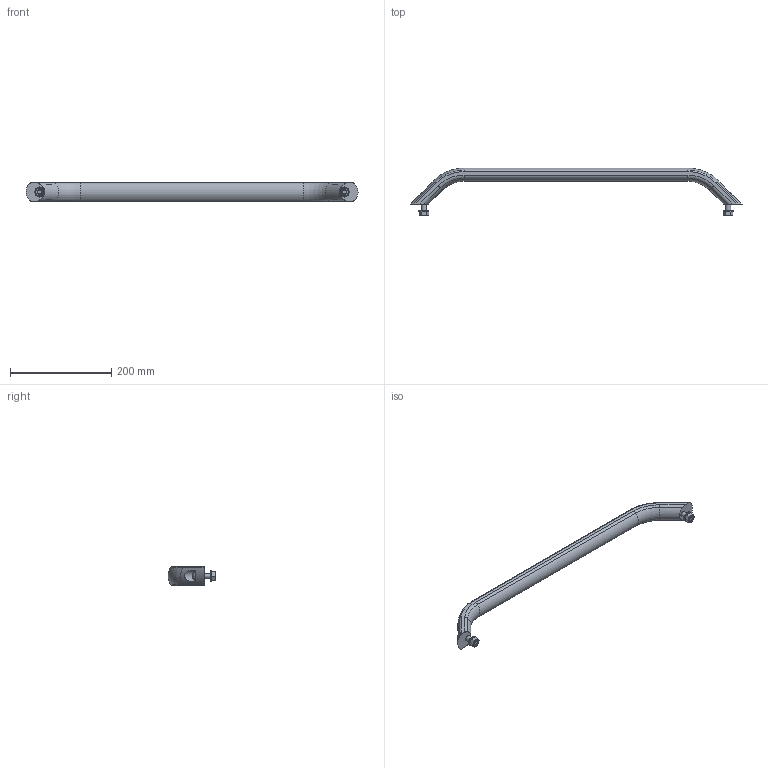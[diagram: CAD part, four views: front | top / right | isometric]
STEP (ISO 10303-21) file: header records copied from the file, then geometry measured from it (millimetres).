
FILE_DESCRIPTION( ( 'STEP AP203' ), '1' );
FILE_NAME( 'C:/Temp/Ganter_Step_05_03_2020/data/1_2/gn_428/gn_428_b/Cabinet U-handle GN 428-AL-36-600-B-EL.stp', '2020-03-05T10:11:41', ( 'License CC BY-ND 4.0' ), ( 'CADENAS' ), ' ', 'PARTsolutions', ' ' );
FILE_SCHEMA( ( 'CONFIG_CONTROL_DESIGN' ) );
Length unit declared in the file: millimetre
Products named in the file (1): _Cabinet U-handle GN 428-AL-36-600-B-EL
Bounding box: 654.73 x 94.31 x 36 mm (x, y, z)
Volume: 509066.3 mm3; surface area: 76299.6 mm2
Topology: 1 solids, 1 shells, 124 faces, 268 edges, 164 vertices
Faces by surface type: plane 50, cylinder 30, cone 30, torus 12, bspline 2
Full cylindrical faces by diameter (mm): 10 x2, 10.5 x2, 11 x2, 17.5 x2, 20 x2
Entity records: 3610 total; most frequent: CARTESIAN_POINT 967, DIRECTION 554, ORIENTED_EDGE 496, EDGE_CURVE 248, AXIS2_PLACEMENT_3D 233, VERTEX_POINT 162, EDGE_LOOP 160, FACE_OUTER_BOUND 136
